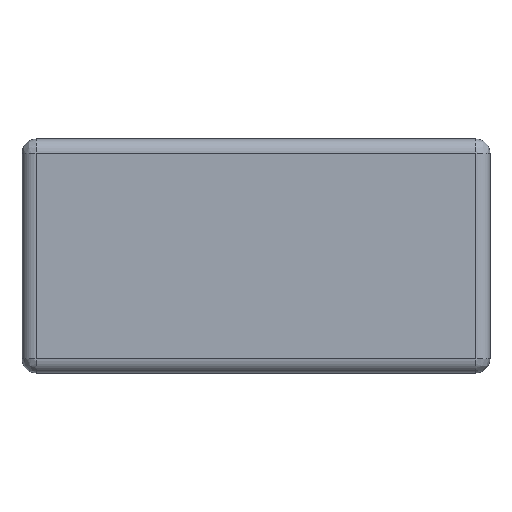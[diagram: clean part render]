
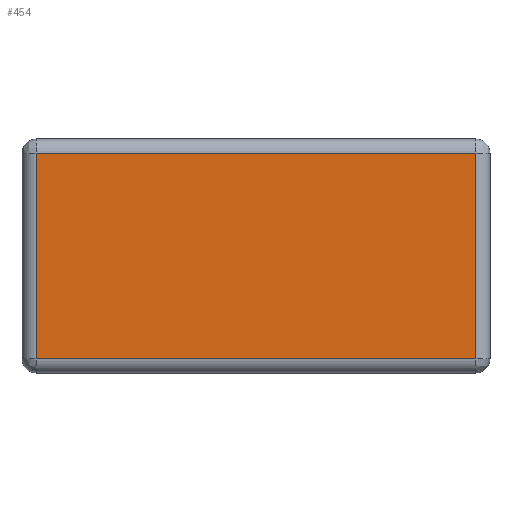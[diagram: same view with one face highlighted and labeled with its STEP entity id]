
A CAD part, top view. The second image highlights one B-rep face of the part: STEP entity #454.
In plain terms, the highlighted planar face has unit normal (0, 0, 1).
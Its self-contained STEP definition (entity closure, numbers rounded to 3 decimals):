
#27 = ORIENTED_EDGE ( 'NONE', *, *, #349, .F. ) ;
#55 = CARTESIAN_POINT ( 'NONE',  ( 50., 22., 0. ) ) ;
#175 = CARTESIAN_POINT ( 'NONE',  ( 50., 25., 0. ) ) ;
#178 = EDGE_CURVE ( 'NONE', #978, #197, #798, .T. ) ;
#197 = VERTEX_POINT ( 'NONE', #430 ) ;
#220 = DIRECTION ( 'NONE',  ( 0., 1., 0. ) ) ;
#230 = AXIS2_PLACEMENT_3D ( 'NONE', #175, #1174, #220 ) ;
#274 = FACE_OUTER_BOUND ( 'NONE', #1189, .T. ) ;
#315 = VECTOR ( 'NONE', #621, 1000. ) ;
#349 = EDGE_CURVE ( 'NONE', #1217, #978, #1133, .T. ) ;
#384 = CARTESIAN_POINT ( 'NONE',  ( -47., 22., 0. ) ) ;
#401 = CARTESIAN_POINT ( 'NONE',  ( -47., 25., 0. ) ) ;
#430 = CARTESIAN_POINT ( 'NONE',  ( 47., -22., 0. ) ) ;
#454 = ADVANCED_FACE ( 'NONE', ( #274 ), #663, .F. ) ;
#500 = VECTOR ( 'NONE', #539, 1000. ) ;
#539 = DIRECTION ( 'NONE',  ( 0., 1., 0. ) ) ;
#574 = ORIENTED_EDGE ( 'NONE', *, *, #178, .F. ) ;
#579 = DIRECTION ( 'NONE',  ( -1., 0., 0. ) ) ;
#589 = LINE ( 'NONE', #1093, #795 ) ;
#621 = DIRECTION ( 'NONE',  ( 1., 0., 0. ) ) ;
#661 = CARTESIAN_POINT ( 'NONE',  ( -47., -22., 0. ) ) ;
#663 = PLANE ( 'NONE',  #230 ) ;
#742 = VERTEX_POINT ( 'NONE', #661 ) ;
#795 = VECTOR ( 'NONE', #579, 1000. ) ;
#798 = LINE ( 'NONE', #819, #973 ) ;
#819 = CARTESIAN_POINT ( 'NONE',  ( 47., 25., 0. ) ) ;
#888 = EDGE_CURVE ( 'NONE', #742, #1217, #1294, .T. ) ;
#902 = ORIENTED_EDGE ( 'NONE', *, *, #888, .F. ) ;
#973 = VECTOR ( 'NONE', #1023, 1000. ) ;
#978 = VERTEX_POINT ( 'NONE', #1228 ) ;
#1023 = DIRECTION ( 'NONE',  ( 0., -1., 0. ) ) ;
#1093 = CARTESIAN_POINT ( 'NONE',  ( 50., -22., 0. ) ) ;
#1133 = LINE ( 'NONE', #55, #315 ) ;
#1143 = ORIENTED_EDGE ( 'NONE', *, *, #1276, .F. ) ;
#1174 = DIRECTION ( 'NONE',  ( 0., 0., -1. ) ) ;
#1189 = EDGE_LOOP ( 'NONE', ( #1143, #574, #27, #902 ) ) ;
#1217 = VERTEX_POINT ( 'NONE', #384 ) ;
#1228 = CARTESIAN_POINT ( 'NONE',  ( 47., 22., 0. ) ) ;
#1276 = EDGE_CURVE ( 'NONE', #197, #742, #589, .T. ) ;
#1294 = LINE ( 'NONE', #401, #500 ) ;
